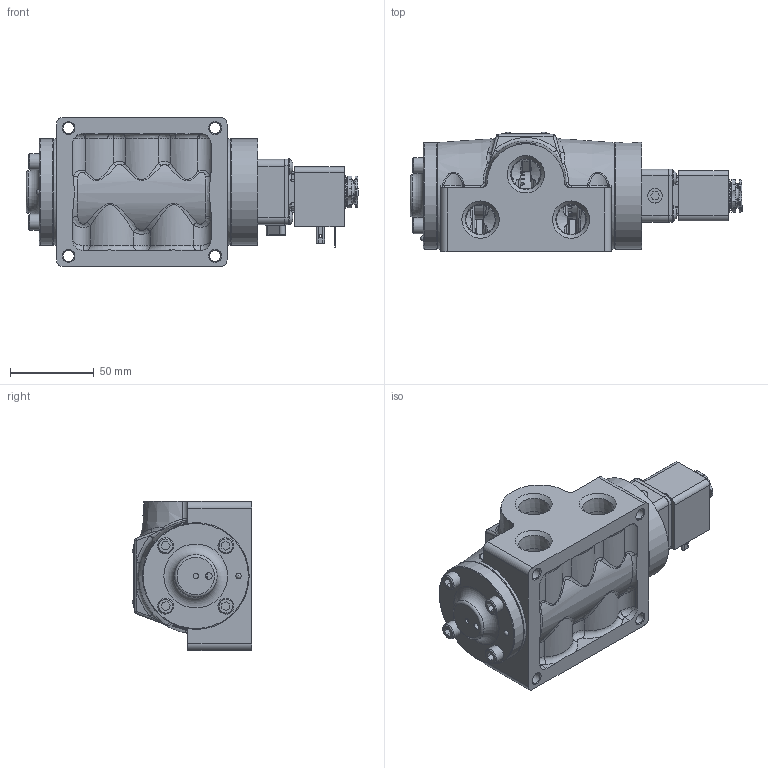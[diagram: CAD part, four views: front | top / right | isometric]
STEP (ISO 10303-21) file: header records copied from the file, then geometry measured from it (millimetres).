
FILE_DESCRIPTION(/* description */ (''),/* implementation_level */ '2;1');
FILE_NAME(/* name */ 'ESO4HOCZ.stp',/* time_stamp */ '2026-07-15T06:14:43-04:00',/* author */ ('rmckenna'),/* organization */ (''),/* preprocessor_version */ 'ST-DEVELOPER v20.1',/* originating_system */ 'Autodesk Inventor 2026',/* authorisation */ '');
FILE_SCHEMA (('AUTOMOTIVE_DESIGN { 1 0 10303 214 3 1 1 }'));
Products named in the file (1): Part6
Bounding box: 197.84 x 71.2 x 88.9 mm (x, y, z)
Volume: 538151 mm3; surface area: 137233.8 mm2
Topology: 1 solids, 32 shells, 2311 faces, 5746 edges, 3558 vertices
Faces by surface type: plane 828, cylinder 605, bspline 358, cone 331, torus 166, sphere 23
Full cylindrical faces by diameter (mm): 1.168 x10, 1.3 x1, 1.397 x1, 1.5 x1, 1.651 x2, 2.032 x8, 2.07 x2, 2.261 x2, 2.35 x4, 2.388 x1, 2.5 x2, 2.778 x2, 2.8 x1, 3 x4, 3.048 x5, 3.175 x3, 3.4 x1, 3.683 x5, 3.969 x1, 4.191 x2, 4.826 x4, 4.978 x8, 5.15 x4, 5.156 x4, 5.5 x1, 5.556 x1, 6.35 x8, 6.629 x4, 6.65 x1, 6.747 x4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
Entity records: 89514 total; most frequent: CARTESIAN_POINT 34364, ORIENTED_EDGE 11396, DIRECTION 10201, EDGE_CURVE 5698, AXIS2_PLACEMENT_3D 3856, VERTEX_POINT 3557, EDGE_LOOP 2567, LINE 2489
